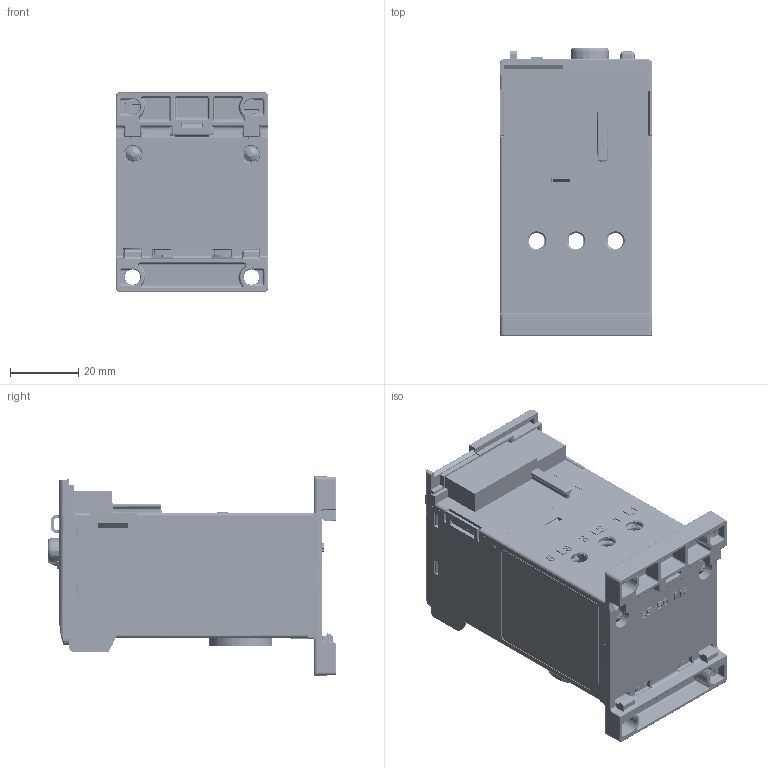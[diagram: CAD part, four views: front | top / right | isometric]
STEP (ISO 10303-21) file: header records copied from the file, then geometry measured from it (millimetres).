
FILE_DESCRIPTION((''),'2;1');
FILE_NAME('10002334580_ASM','2024-07-01T17:04:41',('GYEWALE'),('Rockwell Automation'),'CREO PARAMETRIC BY PTC INC, 2020281','CREO PARAMETRIC BY PTC INC, 2020281','');
FILE_SCHEMA(('CONFIG_CONTROL_DESIGN'));
Products named in the file (94): 10002334575; 40751-176; 10002334576; 40751-94801301; 10002332704; 10002340211; 10002340212; 10002340213; 10002340214; 10002340220_ASM; 10002340215_ASM; 10003213677; 10003213676; 10003213675; 10003213674; 10003213673; 10003213672; 10003213671; 10003240002; 10003240003_ASM; 10002332708_ASM; 10003323580; 10003323581; 10002334578_ASM; 10002128085; 10003065618; 40794-2916950101; 10002128106; 10002128124; 10002128109; 10002128112; 10002508758; 10002128116; 40793-305; 10002128117_AF2; 10002508759; 10002508757_AF23_ASM; 10002209442; 10002209450; 10002209451_ASM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
Assembly tree (214 placements, depth 6):
  10002334580_ASM
    10002334578_ASM
      10002334575
      40751-176
      10002334576
      40751-94801301  x2
      10002332708_ASM
        10002332704
        10002340215_ASM  x3
          10002340211
          10002340220_ASM
            10002340212
            10002340213
            10002340214
        10003240003_ASM
          10003213677
          10003213676
          10003213675
          10003213674
          10003213673
          10003213672
          10003213671
          10003240002
      10003323580
      10003323581
    10002128135_ASM
      10003510054_AF20_ASM
        10002128085
        10003065618  x4
        40794-2916950101  x4
        10002128106
        10002128124
        10002128121_AF170_ASM
          10002128109
          10002128112
          10002508757_AF23_ASM
            10002508758
            10002128116
            40793-305
            10002128117_AF2
            10002508759
          10002209451_ASM
            10002209442
            10002209450
          10002128131_ASM
            10002128128
            10002128129
            10002128130  x2
        10002128126_AF170
        10002128123
        10002128134_AF140
        10002233168
        10002128134_AF141
        10002209415
        10002209452
        10002128117_AF26
        10002512709
        10002515024
        40751-4600608001
      10002469794
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Bounding box: 44.8 x 84.63 x 58.57 mm (x, y, z)
Volume: 68361.5 mm3; surface area: 122346.9 mm2
Topology: 224 solids, 234 shells, 19498 faces, 52528 edges, 33979 vertices
Faces by surface type: plane 14844, cylinder 2632, bspline 589, cone 581, sphere 317, torus 303, extrusion 232
Entity records: 535484 total; most frequent: CARTESIAN_POINT 152843, ORIENTED_EDGE 83073, DIRECTION 72310, EDGE_CURVE 41568, VECTOR 34278, LINE 34046, VERTEX_POINT 26947, AXIS2_PLACEMENT_3D 19016
